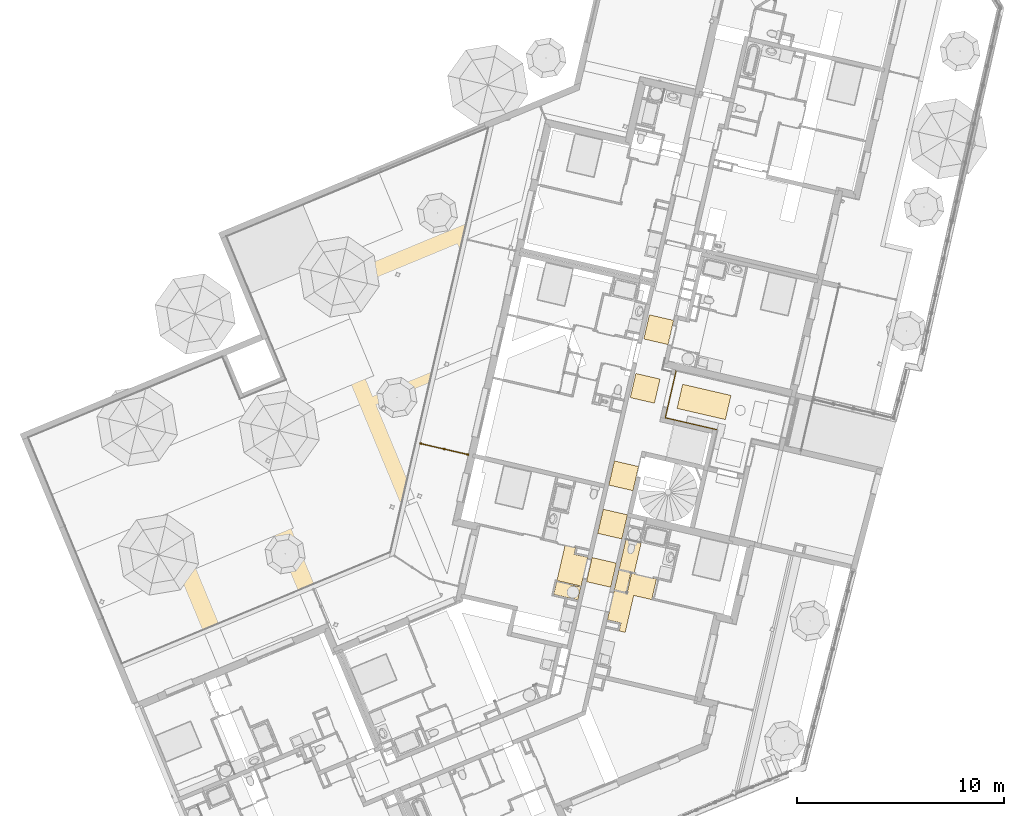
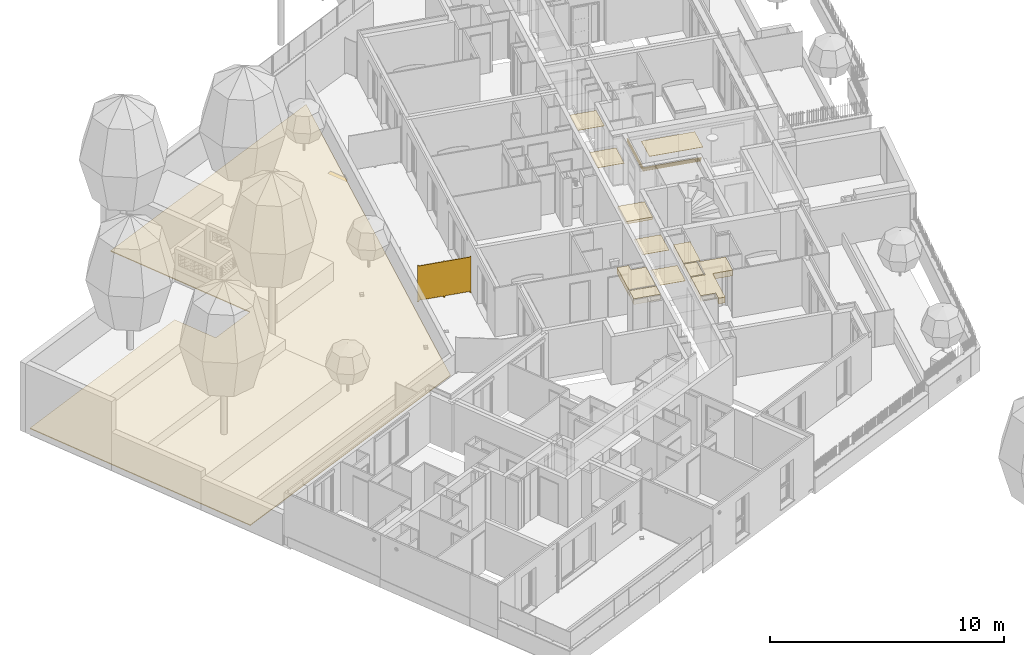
# One storey, part 71 of 119: 11 coverings, 1 railing.
"""IFC2X3 building model written with IfcOpenShell, lengths in metres."""

from ifc_helpers import new_model, entity, si_unit, converted_unit, derived_unit, money_unit, direction, frame, origin_with_axes, place, context, subcontext, project, spatial, faceted_brep, material, material_list, type_object, element, save


model = new_model("IFC2X3")

# Units and contexts
model_context = context("Model", 3, precision=1e-05, world=origin_with_axes(), true_north=direction((0.0, 1.0)))
body_context = subcontext(model_context, "Body", "Model", "MODEL_VIEW")
ifc_project = project(units=[si_unit("LENGTHUNIT", "METRE"), si_unit("AREAUNIT", "SQUARE_METRE"), si_unit("VOLUMEUNIT", "CUBIC_METRE"), converted_unit("PLANEANGLEUNIT", "DEGREE", entity("IfcPlaneAngleMeasure", 0.0174532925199), si_unit("PLANEANGLEUNIT", "RADIAN"), dimensions=[0, 0, 0, 0, 0, 0, 0]), si_unit("SOLIDANGLEUNIT", "STERADIAN"), money_unit("EUR"), converted_unit("TIMEUNIT", "Year", entity("IfcTimeMeasure", 31556926.0), si_unit("TIMEUNIT", "SECOND"), dimensions=[0, 0, 1, 0, 0, 0, 0]), si_unit("MASSUNIT", "GRAM", prefix="KILO"), si_unit("THERMODYNAMICTEMPERATUREUNIT", "DEGREE_CELSIUS"), si_unit("LUMINOUSINTENSITYUNIT", "LUMEN"), si_unit("ENERGYUNIT", "JOULE", prefix="MEGA"), derived_unit("THERMALCONDUCTANCEUNIT", [(si_unit("POWERUNIT", "WATT"), 1), (si_unit("LENGTHUNIT", "METRE"), -1), (si_unit("THERMODYNAMICTEMPERATUREUNIT", "KELVIN"), -1)]), derived_unit("SPECIFICHEATCAPACITYUNIT", [(si_unit("ENERGYUNIT", "JOULE"), 1), (si_unit("MASSUNIT", "GRAM", prefix="KILO"), -1), (si_unit("THERMODYNAMICTEMPERATUREUNIT", "KELVIN"), -1)]), derived_unit("MASSDENSITYUNIT", [(si_unit("MASSUNIT", "GRAM", prefix="KILO"), 1), (si_unit("VOLUMEUNIT", "CUBIC_METRE"), -1)])], contexts=[model_context])

# Site, building, storey
site_placement = place(None, origin_with_axes())
site = spatial("IfcSite", under=ifc_project, at=site_placement, Name="Site", CompositionType="ELEMENT")
building_placement = place(site_placement, origin_with_axes())
building = spatial("IfcBuilding", under=site, at=building_placement, Name="Bâtiment", CompositionType="ELEMENT")
storey_placement = place(building_placement, origin_with_axes())
storey = spatial("IfcBuildingStorey", under=building, at=storey_placement, Name="Rez-de-chaussée", CompositionType="ELEMENT", Elevation=0.0)

# Coverings
ifc_material_1 = material(Name="Finition int - Plaque de plâtre ACOUSTIQUE type GYPTONE")
covering_type_1 = type_object("IfcCoveringType", Name="Finition int - Plaque de plâtre ACOUSTIQUE type GYPTONE 15", PredefinedType="CEILING")
for number, where, z_axis, x_axis, name in (
    (1, (-10.7034347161, -0.277914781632, 2.272), (0.0, 0.0, 1.0), (1.0, 0.0, 0.0), "Dalle_004"),
    (2, (-11.3589488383, -3.118253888, 2.272), (0.0, 0.0, 1.0), (1.0, 0.0, 0.0), "Dalle_004"),
):
    element("IfcCovering", number, at=place(storey_placement, frame(where, z_axis=z_axis, x_axis=x_axis)), inside=storey, type_object=covering_type_1, material=ifc_material_1, Name=name, PredefinedType="CEILING", context=body_context, shape_type="Brep", body=[
        faceted_brep([(0.0, 0.0, 0.0), (0.0, 0.0, -0.015), (1.16926481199, -0.269851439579, -0.015), (1.16926481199, -0.269851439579, 0.0), (0.269851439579, 1.16926481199, 0.0), (0.269851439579, 1.16926481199, -0.015), (1.43911625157, 0.899413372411, -0.015), (1.43911625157, 0.899413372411, 0.0)], [[[0, 1, 2, 3]], [[4, 5, 1, 0]], [[2, 1, 5, 6]], [[3, 2, 6, 7]], [[4, 0, 3, 7]], [[7, 6, 5, 4]]]),
    ])
covering_1_placement = place(storey_placement, frame((-9.09387877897, -3.6410032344, 2.392), z_axis=(0.0, 0.0, 1.0), x_axis=(1.0, 0.0, 0.0)))
element("IfcCovering", 3, at=covering_1_placement, inside=storey, type_object=covering_type_1, material=ifc_material_1, Name="Dalle_004", PredefinedType="CEILING", context=body_context, shape_type="Brep", body=[
    faceted_brep([(0.0, 0.0, 0.0), (0.0, 0.0, -0.015), (2.33852962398, -0.539702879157, -0.015), (2.33852962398, -0.539702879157, 0.0), (0.269851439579, 1.16926481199, 0.0), (0.269851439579, 1.16926481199, -0.015), (2.60838106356, 0.629561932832, -0.015), (2.60838106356, 0.629561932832, 0.0)], [[[0, 1, 2, 3]], [[4, 5, 1, 0]], [[2, 1, 5, 6]], [[3, 2, 6, 7]], [[4, 0, 3, 7]], [[7, 6, 5, 4]]]),
])
for number, where, z_axis, x_axis, name in (
    (4, (-12.9379557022, -9.69153193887, 2.272), (0.0, 0.0, 1.0), (1.0, 0.0, 0.0), "Dalle_004"),
    (5, (-13.4776585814, -12.0300615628, 2.272), (0.0, 0.0, 1.0), (1.0, 0.0, 0.0), "Dalle_004"),
):
    element("IfcCovering", number, at=place(storey_placement, frame(where, z_axis=z_axis, x_axis=x_axis)), inside=storey, type_object=covering_type_1, material=ifc_material_1, Name=name, PredefinedType="CEILING", context=body_context, shape_type="Brep", body=[
        faceted_brep([(0.0, 0.0, 0.0), (0.0, 0.0, -0.015), (1.16926481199, -0.269851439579, -0.015), (1.16926481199, -0.269851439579, 0.0), (0.269851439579, 1.16926481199, 0.0), (0.269851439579, 1.16926481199, -0.015), (1.43911625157, 0.899413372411, -0.015), (1.43911625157, 0.899413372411, 0.0)], [[[0, 1, 2, 3]], [[4, 5, 1, 0]], [[2, 1, 5, 6]], [[3, 2, 6, 7]], [[4, 0, 3, 7]], [[7, 6, 5, 4]]]),
    ])
ifc_material_2 = material(Name="Finition sol - Carrelage")
covering_type_2 = type_object("IfcCoveringType", Name="Corniche lumineuse 50 x 180", PredefinedType="USERDEFINED")
covering_2_placement = place(storey_placement, frame((-9.69538604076, -4.11282312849, 2.1), z_axis=(0.0, 0.0, 1.0), x_axis=(0.224876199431, 0.974387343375, 0.0)))
element("IfcCovering", 6, at=covering_2_placement, inside=storey, type_object=covering_type_2, material=ifc_material_2, Name="M_Ext-014", ObjectType="MOLDING", PredefinedType="USERDEFINED", context=body_context, shape_type="Brep", body=[
    faceted_brep([(2.34024268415, -0.039777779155, 0.179999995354), (0.0497573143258, -0.039777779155, 0.179999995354), (0.0497573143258, -0.0497573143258, 0.179999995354), (2.34024268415, -0.0497573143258, 0.179999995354), (0.0485190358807, -0.039012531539, 0.151832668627), (0.0486246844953, -0.0390485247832, 0.153157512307), (2.34137531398, -0.0390485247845, 0.153157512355), (2.34148096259, -0.039012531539, 0.151832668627), (0.0486246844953, -0.0486246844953, 0.153157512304), (2.34137531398, -0.0486246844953, 0.153157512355), (0.0464894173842, -0.0367087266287, 0.126381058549), (0.0464894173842, -0.0464894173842, 0.126381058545), (0.0484134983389, -0.0384178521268, 0.15050921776), (0.0483677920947, -0.0370849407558, 0.149936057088), (0.0482645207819, 1.75415415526e-09, 0.148641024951), (0.0476820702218, 1.75415060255e-09, 0.141337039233), (0.0475812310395, -0.0362113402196, 0.140072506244), (0.0475282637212, -0.037631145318, 0.139408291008), (0.0474099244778, -0.0381359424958, 0.13792430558), (2.34351058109, -0.0464894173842, 0.126381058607), (2.34351058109, -0.0367087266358, 0.126381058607), (2.342590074, -0.0381359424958, 0.13792430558), (2.34247173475, -0.037631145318, 0.139408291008), (2.34241876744, -0.0362113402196, 0.140072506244), (2.34231792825, 1.75415948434e-09, 0.141337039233), (2.34173547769, 1.75415948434e-09, 0.148641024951), (2.34163220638, -0.0370849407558, 0.149936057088), (2.34158650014, -0.0384178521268, 0.15050921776), (0.041833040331, -0.0322835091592, 0.090590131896), (0.041833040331, -0.041833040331, 0.0905901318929), (2.34816695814, -0.0322835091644, 0.0905901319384), (2.3499858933, -0.0311721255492, 0.0816013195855), (0.0400141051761, -0.0311721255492, 0.0816013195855), (2.34816695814, -0.041833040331, 0.0905901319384), (0.0353553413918, -0.0267066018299, 0.058578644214), (0.0353553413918, -0.0353553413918, 0.0585786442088), (0.0397780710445, -0.0305159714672, 0.0804348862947), (0.0396786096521, -0.0292711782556, 0.0799433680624), (0.0394717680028, -8.21943402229e-10, 0.0789211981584), (0.037871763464, -1.05185421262e-07, 0.0710142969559), (0.0376830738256, -0.0267024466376, 0.0700818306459), (0.0375300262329, -0.0281999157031, 0.0693255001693), (0.0372000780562, -0.0285946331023, 0.067694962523), (0.0353911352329, -0.0267542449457, 0.0587555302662), (2.35464465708, -0.0353553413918, 0.0585786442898), (2.35464465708, -0.0267066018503, 0.0585786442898), (2.35460886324, -0.0267542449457, 0.0587555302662), (2.35279992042, -0.0285946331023, 0.067694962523), (2.35246997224, -0.0281999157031, 0.0693255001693), (2.35231692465, -0.0267024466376, 0.0700818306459), (2.35212823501, -1.05185405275e-07, 0.0710142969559), (2.35052823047, -8.21934520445e-10, 0.0789211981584), (2.35032138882, -0.0292711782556, 0.0799433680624), (2.35022192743, -0.0305159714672, 0.0804348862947), (0.027360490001, -0.0185426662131, 0.0326008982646), (0.027360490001, -0.027360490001, 0.0326008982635), (0.0297170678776, -0.0217720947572, 0.0402581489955), (2.3602829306, -0.0217720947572, 0.0402581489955), (2.36263950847, -0.027360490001, 0.0326008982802), (2.36263950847, -0.0185426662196, 0.0326008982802), (0.0229630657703, -0.0141301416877, 0.0223424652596), (0.0229630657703, -0.0229630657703, 0.0223424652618), (0.0230765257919, -0.0143278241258, 0.0226071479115), (2.36692347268, -0.0143278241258, 0.0226071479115), (2.36703693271, -0.0229630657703, 0.0223424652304), (2.36703693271, -0.0141301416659, 0.0223424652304), (0.018404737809, -0.00793106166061, 0.0140423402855), (0.018404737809, -0.018404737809, 0.0140423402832), (2.37159526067, -0.00793106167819, 0.0140423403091), (2.37231150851, -0.00728579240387, 0.0131783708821), (0.0176884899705, -0.00728579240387, 0.0131783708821), (2.37159526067, -0.018404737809, 0.0140423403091), (0.0104699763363, 1.75415770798e-09, 0.00447108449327), (0.0104699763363, -0.0104699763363, 0.00447108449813), (0.0157136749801, -0.00365822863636, 0.0107962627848), (0.0150535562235, 1.75415593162e-09, 0.00999999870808), (2.37953002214, -0.0104699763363, 0.00447108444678), (2.37953002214, 1.75415948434e-09, 0.00447108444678), (2.37494644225, 1.75415770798e-09, 0.00999999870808), (2.3742863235, -0.00365822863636, 0.0107962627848), (0.00552140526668, 1.75415593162e-09, 0.00123783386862), (0.00552140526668, -0.00552140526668, 0.00123783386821), (2.38447859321, 1.75415948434e-09, 0.00123783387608), (2.38999999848, 1.75415770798e-09, 0.0), (0.0, 1.75415770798e-09, 0.0), (2.38447859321, -0.00552140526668, 0.00123783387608)], [[[0, 1, 2, 3]], [[4, 5, 1, 0, 6, 7]], [[5, 8, 2, 1]], [[3, 2, 8, 9]], [[9, 6, 0, 3]], [[10, 11, 8, 5, 4, 12, 13, 14, 15, 16, 17, 18]], [[7, 6, 9, 19, 20, 21, 22, 23, 24, 25, 26, 27]], [[27, 12, 4, 7]], [[9, 8, 11, 19]], [[28, 29, 11, 10]], [[26, 13, 12, 27]], [[25, 14, 13, 26]], [[24, 15, 14, 25]], [[23, 16, 15, 24]], [[22, 17, 16, 23]], [[21, 18, 17, 22]], [[28, 10, 18, 21, 20, 30, 31, 32]], [[30, 20, 19, 33]], [[19, 11, 29, 33]], [[34, 35, 29, 28, 32, 36, 37, 38, 39, 40, 41, 42, 43]], [[31, 30, 33, 44, 45, 46, 47, 48, 49, 50, 51, 52, 53]], [[53, 36, 32, 31]], [[33, 29, 35, 44]], [[54, 55, 35, 34, 56]], [[52, 37, 36, 53]], [[51, 38, 37, 52]], [[50, 39, 38, 51]], [[49, 40, 39, 50]], [[48, 41, 40, 49]], [[47, 42, 41, 48]], [[46, 43, 42, 47]], [[56, 34, 43, 46, 45, 57]], [[57, 45, 44, 58, 59]], [[44, 35, 55, 58]], [[60, 61, 55, 54, 62]], [[62, 54, 56, 57, 59, 63]], [[63, 59, 58, 64, 65]], [[58, 55, 61, 64]], [[66, 67, 61, 60]], [[66, 60, 62, 63, 65, 68, 69, 70]], [[68, 65, 64, 71]], [[64, 61, 67, 71]], [[72, 73, 67, 66, 70, 74, 75]], [[69, 68, 71, 76, 77, 78, 79]], [[79, 74, 70, 69]], [[71, 67, 73, 76]], [[80, 81, 73, 72]], [[78, 75, 74, 79]], [[80, 72, 75, 78, 77, 82, 83, 84]], [[82, 77, 76, 85]], [[76, 73, 81, 85]], [[80, 84, 81]], [[83, 82, 85]], [[85, 81, 84, 83]]]),
])
covering_3_placement = place(storey_placement, frame((-7.16431648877, -4.69696177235, 2.1), z_axis=(0.0, 0.0, 1.0), x_axis=(-0.974387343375, 0.224876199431, 0.0)))
element("IfcCovering", 7, at=covering_3_placement, inside=storey, type_object=covering_type_2, material=ifc_material_2, Name="M_Ext-013", ObjectType="MOLDING", PredefinedType="USERDEFINED", context=body_context, shape_type="Brep", body=[
    faceted_brep([(2.55782323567, -0.0397777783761, 0.179999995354), (-0.0397777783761, -0.0397777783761, 0.179999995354), (-0.0397777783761, -0.04975731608, 0.179999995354), (2.55782323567, -0.0497573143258, 0.179999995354), (2.55858848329, -0.039012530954, 0.151832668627), (-0.039012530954, -0.039012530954, 0.151832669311), (-0.039012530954, -0.0485190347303, 0.151832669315), (-0.0390485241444, -0.0486246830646, 0.153157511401), (2.55855249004, -0.0486246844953, 0.153157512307), (2.55858848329, -0.0485190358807, 0.151832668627), (2.5591831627, -0.0384178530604, 0.15050921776), (-0.0384178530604, -0.0384178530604, 0.150509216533), (-0.0376311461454, -0.0475282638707, 0.139408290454), (-0.0381359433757, -0.0474099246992, 0.137924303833), (-0.0367087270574, -0.0464894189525, 0.126381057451), (2.5608922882, -0.0464894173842, 0.126381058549), (2.55946507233, -0.0474099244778, 0.13792430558), (2.55996986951, -0.0475282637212, 0.139408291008), (2.56138967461, -0.0475812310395, 0.140072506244), (2.59760101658, -0.0476820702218, 0.141337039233), (2.59760101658, -0.0482645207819, 0.148641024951), (2.56051607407, -0.0483677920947, 0.149936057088), (2.5591831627, -0.0484134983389, 0.15050921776), (-0.0384178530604, -0.0484134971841, 0.150509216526), (-0.0370849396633, -0.0483677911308, 0.149936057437), (0.0, -0.0482645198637, 0.148641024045), (0.0, -0.0476820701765, 0.14133703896), (-0.036211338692, -0.047581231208, 0.140072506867), (2.56051607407, -0.0370849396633, 0.149936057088), (-0.0370849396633, -0.0370849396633, 0.149936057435), (-0.0381359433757, -0.0381359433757, 0.137924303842), (-0.0376311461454, -0.0376311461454, 0.139408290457), (-0.0322835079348, -0.0418330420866, 0.0905901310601), (-0.031172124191, -0.031172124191, 0.0816013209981), (-0.031172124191, -0.0400141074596, 0.081601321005), (2.56531750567, -0.041833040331, 0.090590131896), (2.56642888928, -0.031172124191, 0.0816013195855), (2.55946507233, -0.0381359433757, 0.13792430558), (2.56642888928, -0.0400141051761, 0.0816013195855), (2.55996986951, -0.0376311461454, 0.139408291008), (2.56138967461, -0.036211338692, 0.140072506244), (2.59760101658, 0.0, 0.141337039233), (2.59760101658, 0.0, 0.148641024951), (0.0, 0.0, 0.148641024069), (0.0, 0.0, 0.141337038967), (-0.036211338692, -0.036211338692, 0.140072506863), (-0.0305159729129, -0.0305159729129, 0.0804348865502), (-0.0305159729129, -0.0397780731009, 0.0804348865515), (-0.0285946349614, -0.0372000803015, 0.0676949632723), (-0.0267542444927, -0.035391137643, 0.0587555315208), (-0.0267066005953, -0.0353553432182, 0.0585786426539), (2.570894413, -0.0353553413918, 0.058578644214), (2.57084676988, -0.0353911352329, 0.0587555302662), (2.56900638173, -0.0372000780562, 0.067694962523), (2.56940109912, -0.0375300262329, 0.0693255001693), (2.57089856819, -0.0376830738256, 0.0700818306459), (2.59760090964, -0.037871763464, 0.0710142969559), (2.59760101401, -0.0394717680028, 0.0789211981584), (2.56832983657, -0.0396786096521, 0.0799433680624), (2.56708504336, -0.0397780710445, 0.0804348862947), (-0.0292711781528, -0.039678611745, 0.0799433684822), (0.0, -0.0394717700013, 0.0789211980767), (0.0, -0.0378717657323, 0.0710142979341), (-0.0267024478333, -0.0376830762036, 0.0700818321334), (-0.0281999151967, -0.0375300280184, 0.0693254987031), (2.56708504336, -0.0305159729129, 0.0804348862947), (-0.0292711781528, -0.0292711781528, 0.0799433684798), (-0.0267542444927, -0.0267542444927, 0.0587555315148), (-0.0285946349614, -0.0285946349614, 0.0676949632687), (-0.0217720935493, -0.0297170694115, 0.0402581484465), (-0.0217720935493, -0.0217720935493, 0.0402581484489), (-0.0185426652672, -0.0273604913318, 0.032600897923), (2.57905834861, -0.027360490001, 0.0326008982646), (2.57582892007, -0.0297170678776, 0.0402581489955), (2.57582892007, -0.0217720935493, 0.0402581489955), (2.57084676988, -0.0267542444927, 0.0587555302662), (2.56900638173, -0.0285946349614, 0.067694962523), (2.56940109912, -0.0281999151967, 0.0693255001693), (2.57089856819, -0.0267024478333, 0.0700818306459), (2.59760090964, 0.0, 0.0710142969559), (2.59760101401, 0.0, 0.0789211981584), (2.56832983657, -0.0292711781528, 0.0799433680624), (0.0, 0.0, 0.0789211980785), (0.0, 0.0, 0.071014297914), (-0.0267024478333, -0.0267024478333, 0.0700818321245), (-0.0281999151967, -0.0281999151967, 0.0693254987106), (-0.0143278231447, -0.0230765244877, 0.0226071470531), (-0.0143278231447, -0.0143278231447, 0.0226071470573), (-0.0141301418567, -0.0229630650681, 0.0223424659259), (2.58347087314, -0.0229630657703, 0.0223424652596), (2.5832731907, -0.0230765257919, 0.0226071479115), (2.5832731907, -0.0143278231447, 0.0226071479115), (-0.00793105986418, -0.0184047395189, 0.0140423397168), (-0.00728579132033, -0.00728579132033, 0.0131783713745), (-0.00728579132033, -0.0176884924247, 0.0131783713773), (2.58966995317, -0.018404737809, 0.0140423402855), (2.59031522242, -0.00728579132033, 0.0131783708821), (2.59031522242, -0.0176884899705, 0.0131783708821), (-0.00365822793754, -0.00365822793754, 0.0107962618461), (-0.00365822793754, -0.0157136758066, 0.0107962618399), (0.0, -0.0150535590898, 0.0100000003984), (0.0, -0.0104699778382, 0.00447108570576), (2.59760101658, -0.0104699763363, 0.00447108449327), (2.59760101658, -0.0150535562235, 0.00999999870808), (2.59394278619, -0.0157136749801, 0.0107962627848), (2.59394278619, -0.00365822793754, 0.0107962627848), (0.0, 0.0, 0.0100000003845), (0.0, -0.00552140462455, 0.0012378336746), (0.0, 1.75415859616e-09, 0.0), (2.59760101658, -0.00552140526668, 0.00123783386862), (2.59760101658, 0.0, 0.0), (2.59760101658, 0.0, 0.00999999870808)], [[[0, 1, 2, 3]], [[4, 5, 1, 0]], [[6, 7, 2, 1, 5]], [[3, 2, 7, 8]], [[9, 4, 0, 3, 8]], [[10, 11, 5, 4]], [[12, 13, 14, 15, 16, 17, 18, 19, 20, 21, 22, 9, 8, 7, 6, 23, 24, 25, 26, 27]], [[11, 23, 6, 5]], [[10, 4, 9, 22]], [[28, 29, 11, 10]], [[30, 13, 12, 31]], [[32, 14, 13, 30, 33, 34]], [[15, 14, 32, 35]], [[36, 37, 16, 15, 35, 38]], [[37, 39, 17, 16]], [[39, 40, 18, 17]], [[40, 41, 19, 18]], [[41, 42, 20, 19]], [[42, 28, 21, 20]], [[28, 10, 22, 21]], [[29, 24, 23, 11]], [[43, 25, 24, 29]], [[44, 26, 25, 43]], [[45, 27, 26, 44]], [[31, 12, 27, 45]], [[42, 43, 29, 28]], [[37, 30, 31, 39]], [[36, 33, 30, 37]], [[46, 47, 34, 33]], [[48, 49, 50, 51, 52, 53, 54, 55, 56, 57, 58, 59, 38, 35, 32, 34, 47, 60, 61, 62, 63, 64]], [[65, 36, 38, 59]], [[39, 31, 45, 40]], [[40, 45, 44, 41]], [[41, 44, 43, 42]], [[65, 46, 33, 36]], [[66, 60, 47, 46]], [[67, 49, 48, 68]], [[69, 50, 49, 67, 70]], [[50, 69, 71, 72, 73, 51]], [[74, 75, 52, 51, 73]], [[75, 76, 53, 52]], [[76, 77, 54, 53]], [[77, 78, 55, 54]], [[78, 79, 56, 55]], [[79, 80, 57, 56]], [[80, 81, 58, 57]], [[81, 65, 59, 58]], [[82, 61, 60, 66]], [[83, 62, 61, 82]], [[84, 63, 62, 83]], [[85, 64, 63, 84]], [[68, 48, 64, 85]], [[81, 66, 46, 65]], [[75, 67, 68, 76]], [[74, 70, 67, 75]], [[86, 71, 69, 70, 87]], [[71, 86, 88, 89, 90, 72]], [[91, 74, 73, 72, 90]], [[76, 68, 85, 77]], [[77, 85, 84, 78]], [[78, 84, 83, 79]], [[79, 83, 82, 80]], [[80, 82, 66, 81]], [[91, 87, 70, 74]], [[92, 88, 86, 87, 93, 94]], [[89, 88, 92, 95]], [[96, 91, 90, 89, 95, 97]], [[96, 93, 87, 91]], [[98, 99, 94, 93]], [[99, 100, 101, 102, 103, 104, 97, 95, 92, 94]], [[105, 96, 97, 104]], [[105, 98, 93, 96]], [[106, 100, 99, 98]], [[107, 101, 100, 106, 108]], [[102, 101, 107, 109]], [[110, 111, 103, 102, 109]], [[111, 105, 104, 103]], [[111, 106, 98, 105]], [[110, 108, 106, 111]], [[109, 107, 108, 110]]]),
])
ifc_material_3 = material(Name="Panneau drainage")
covering_type_3 = type_object("IfcCoveringType", Name="Panneau drainage 40", PredefinedType="INSULATION")
covering_4_placement = place(storey_placement, frame((-31.1017428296, -1.13578147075, 0.05), z_axis=(0.0, 0.0, 1.0), x_axis=(1.0, 0.0, 0.0)))
element("IfcCovering", 8, at=covering_4_placement, inside=storey, type_object=covering_type_3, material=ifc_material_3, Name="Dalle_004", PredefinedType="INSULATION", context=body_context, shape_type="Brep", body=[
    faceted_brep([(0.0, 0.0, 0.0), (0.0, 0.0, -0.04), (-9.41553793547, -3.90516852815, -0.04), (-9.41553793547, -3.90516852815, 0.0), (0.846678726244, -2.04138069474, 0.0), (0.846678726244, -2.04138069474, -0.04), (3.08203677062, -1.11424833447, -0.04), (2.23535804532, 0.927132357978, -0.04), (2.23264258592, 0.9260060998, -0.04), (0.190729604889, 5.83070416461, -0.04), (12.9047830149, 11.1039704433, -0.04), (8.15201521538, -9.48974642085, -0.04), (-4.86077651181, -14.8869043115, -0.04), (-4.86077651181, -14.8869043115, 0.0), (8.15201521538, -9.48974642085, 0.0), (12.9047830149, 11.1039704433, 0.0), (0.190729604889, 5.83070416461, 0.0), (2.23264258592, 0.9260060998, 0.0), (2.23535804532, 0.927132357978, 0.0), (3.08203677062, -1.11424833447, 0.0)], [[[0, 1, 2, 3]], [[4, 5, 1, 0]], [[2, 1, 5, 6, 7, 8, 9, 10, 11, 12]], [[3, 2, 12, 13]], [[4, 0, 3, 13, 14, 15, 16, 17, 18, 19]], [[19, 6, 5, 4]], [[18, 7, 6, 19]], [[17, 8, 7, 18]], [[16, 9, 8, 17]], [[15, 10, 9, 16]], [[14, 11, 10, 15]], [[13, 12, 11, 14]]]),
])
ifc_material_4 = material(Name="Finition int - Plaque de plâtre")
covering_type_4 = type_object("IfcCoveringType", Name="Finition int - Plaque de plâtre 300", PredefinedType="CEILING")
covering_5_placement = place(storey_placement, frame((-13.8972533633, -12.9143163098, 2.5), z_axis=(0.0, 0.0, 1.0), x_axis=(1.0, 0.0, 0.0)))
element("IfcCovering", 9, at=covering_5_placement, inside=storey, type_object=covering_type_4, material=ifc_material_4, Name="Dalle_004", PredefinedType="CEILING", context=body_context, shape_type="Brep", body=[
    faceted_brep([(0.0, 0.0, -0.3), (0.14369589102, 0.622633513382, -0.3), (0.14369589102, 0.622633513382, 0.0), (0.0, 0.0, 0.0), (-1.16926481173, 0.269851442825, -0.3), (-1.02556892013, 0.892484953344, -0.3), (-1.02556892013, 0.892484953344, 0.0), (-1.16926481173, 0.269851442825, 0.0)], [[[0, 1, 2, 3]], [[4, 5, 1, 0]], [[5, 6, 2, 1]], [[3, 2, 6, 7]], [[3, 7, 4, 0]], [[7, 6, 5, 4]]]),
    faceted_brep([(-0.619097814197, 2.65372202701, 0.0), (-1.01477486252, 0.939255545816, 0.0), (0.154489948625, 0.669404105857, 0.0), (0.477307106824, 2.06816908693, 0.0), (-0.182803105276, 2.20511983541, 0.0), (-0.106570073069, 2.53543714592, 0.0), (-0.619097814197, 2.65372202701, -0.3), (-1.01477486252, 0.939255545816, -0.3), (0.154489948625, 0.669404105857, -0.3), (0.477307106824, 2.06816908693, -0.3), (-0.182803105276, 2.20511983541, -0.3), (-0.106570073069, 2.53543714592, -0.3)], [[[0, 1, 2, 3, 4, 5]], [[6, 7, 1, 0]], [[7, 8, 2, 1]], [[3, 2, 8, 9]], [[4, 3, 9, 10]], [[5, 4, 10, 11]], [[0, 5, 11, 6]], [[9, 8, 7, 6, 11, 10]]]),
])
covering_6_placement = place(storey_placement, frame((-10.833336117, -10.1552773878, 2.5), z_axis=(0.0, 0.0, 1.0), x_axis=(1.0, 0.0, 0.0)))
element("IfcCovering", 10, at=covering_6_placement, inside=storey, type_object=covering_type_4, material=ifc_material_4, Name="Dalle_004", PredefinedType="CEILING", context=body_context, shape_type="Brep", body=[
    faceted_brep([(-1.29704589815, -2.26268990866, 0.0), (-0.723131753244, -2.39514199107, 0.0), (-0.50368993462, -1.44430179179, 0.0), (-1.07760408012, -1.31184971, 0.0), (-1.29704589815, -2.26268990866, -0.3), (-0.723131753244, -2.39514199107, -0.3), (-0.50368993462, -1.44430179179, -0.3), (-1.07760408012, -1.31184971, -0.3)], [[[0, 1, 2, 3]], [[4, 5, 1, 0]], [[5, 6, 2, 1]], [[3, 2, 6, 7]], [[7, 4, 0, 3]], [[7, 6, 5, 4]]]),
    faceted_brep([(-0.735662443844, 0.16978153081, 0.0), (-1.06681002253, -1.26507911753, 0.0), (-0.331147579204, -1.43486064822, 0.0), (0.0, 0.0, 0.0), (-0.735662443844, 0.16978153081, -0.3), (-1.06681002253, -1.26507911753, -0.3), (-0.331147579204, -1.43486064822, -0.3), (0.0, 0.0, -0.3)], [[[0, 1, 2, 3]], [[4, 5, 1, 0]], [[5, 6, 2, 1]], [[3, 2, 6, 7]], [[0, 3, 7, 4]], [[7, 6, 5, 4]]]),
    faceted_brep([(-0.341941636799, -1.4816312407, -0.3), (-0.456919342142, -1.45509584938, -0.3), (-0.456919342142, -1.45509584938, 0.0), (-0.341941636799, -1.4816312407, 0.0), (-0.687155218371, -2.4527066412, -0.3), (-0.67636116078, -2.40593604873, -0.3), (-0.344865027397, -1.49429827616, -0.3), (0.741576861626, -1.74503523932, -0.3), (0.511340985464, -2.74264603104, -0.3), (-0.36073568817, -2.54138183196, -0.3), (-0.773160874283, -4.32841790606, -0.3), (-1.06547707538, -4.26095504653, -0.3), (-0.975749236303, -3.87216481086, -0.3), (-1.63346069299, -3.72037337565, -0.3), (-1.3078399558, -2.30946050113, -0.3), (-0.67636116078, -2.40593604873, 0.0), (-0.687155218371, -2.4527066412, 0.0), (-1.3078399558, -2.30946050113, 0.0), (-1.63346069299, -3.72037337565, 0.0), (-0.975749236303, -3.87216481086, 0.0), (-1.06547707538, -4.26095504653, 0.0), (-0.773160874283, -4.32841790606, 0.0), (-0.36073568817, -2.54138183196, 0.0), (0.511340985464, -2.74264603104, 0.0), (0.741576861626, -1.74503523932, 0.0), (-0.344865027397, -1.49429827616, 0.0)], [[[0, 1, 2, 3]], [[4, 5, 1, 0, 6, 7, 8, 9, 10, 11, 12, 13, 14]], [[5, 15, 2, 1]], [[3, 2, 15, 16, 17, 18, 19, 20, 21, 22, 23, 24, 25]], [[6, 0, 3, 25]], [[16, 15, 5, 4]], [[25, 24, 7, 6]], [[24, 23, 8, 7]], [[23, 22, 9, 8]], [[22, 21, 10, 9]], [[21, 20, 11, 10]], [[20, 19, 12, 11]], [[19, 18, 13, 12]], [[18, 17, 14, 13]], [[14, 17, 16, 4]]]),
])
covering_type_5 = type_object("IfcCoveringType", Name="Finition int - Plaque de plâtre ACOUSTIQUE type GYPTONE 133", PredefinedType="CEILING")
covering_7_placement = place(storey_placement, frame((-12.3982528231, -7.35300231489, 2.39), z_axis=(0.0, 0.0, 1.0), x_axis=(1.0, 0.0, 0.0)))
element("IfcCovering", 11, at=covering_7_placement, inside=storey, type_object=covering_type_5, material=ifc_material_1, Name="Dalle_004", PredefinedType="CEILING", context=body_context, shape_type="Brep", body=[
    faceted_brep([(0.0, 0.0, 0.0), (0.0, 0.0, -0.133), (1.16926481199, -0.269851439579, -0.133), (1.16926481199, -0.269851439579, 0.0), (0.269851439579, 1.16926481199, 0.0), (0.269851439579, 1.16926481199, -0.133), (1.43911625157, 0.899413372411, -0.133), (1.43911625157, 0.899413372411, 0.0)], [[[0, 1, 2, 3]], [[4, 5, 1, 0]], [[2, 1, 5, 6]], [[3, 2, 6, 7]], [[4, 0, 3, 7]], [[7, 6, 5, 4]]]),
])

# Railing
ifc_material_5 = material(Name="Métal - Acier")
ifc_material_6 = material(Name="Métal - Acier inoxidable")
ifc_material_7 = material(Name="Vitrage")
ifc_material_list = material_list([ifc_material_5, ifc_material_5, ifc_material_6, ifc_material_7, ifc_material_5, ifc_material_6, ifc_material_7])
railing_type = type_object("IfcRailingType", Name="Type de garde-corps", PredefinedType="NOTDEFINED")
railing_placement = place(storey_placement, frame((-21.5159446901, -5.34372914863, 0.2), z_axis=(0.0, 0.0, 1.0), x_axis=(1.0, 0.0, 0.0)))
element("IfcRailing", 12, at=railing_placement, inside=storey, type_object=railing_type, material=ifc_material_list, Name="Pare-vue acier laqué+verre dépoli H=190", PredefinedType="NOTDEFINED", context=body_context, shape_type="Brep", body=[
    faceted_brep([(0.0179889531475, 0.0112426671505, 0.01), (0.0112426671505, -0.0179889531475, 0.01), (0.0112426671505, -0.0179889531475, 1.88), (0.0179889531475, 0.0112426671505, 1.88), (0.0239852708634, 0.0149902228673, 0.01), (0.0149902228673, -0.0239852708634, 0.01), (-0.0239852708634, -0.0149902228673, 0.01), (-0.0149902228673, 0.0239852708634, 0.01), (-0.0179889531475, -0.0112426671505, 0.01), (-0.0112426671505, 0.0179889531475, 0.01), (-0.0179889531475, -0.0112426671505, 1.88), (-0.0239852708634, -0.0149902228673, 1.88), (0.0149902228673, -0.0239852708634, 1.88), (0.0239852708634, 0.0149902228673, 1.88), (-0.0149902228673, 0.0239852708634, 1.88), (-0.0112426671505, 0.0179889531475, 1.88)], [[[0, 1, 2, 3]], [[4, 5, 6, 7], [8, 1, 0, 9]], [[1, 8, 10, 2]], [[11, 12, 13, 14], [3, 2, 10, 15]], [[9, 0, 3, 15]], [[5, 4, 13, 12]], [[6, 5, 12, 11]], [[7, 6, 11, 14]], [[4, 7, 14, 13]], [[8, 9, 15, 10]]]),
    faceted_brep([(-0.0299804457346, 0.0479705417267, 0.0), (-0.0299804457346, 0.0479705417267, 0.01), (0.0479705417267, 0.0299804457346, 0.01), (0.0479705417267, 0.0299804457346, 0.0), (-0.0479705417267, -0.0299804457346, 0.0), (-0.0479705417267, -0.0299804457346, 0.01), (0.0299804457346, -0.0479705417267, 0.01), (0.0299804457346, -0.0479705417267, 0.0)], [[[0, 1, 2, 3]], [[4, 5, 1, 0]], [[1, 5, 6, 2]], [[3, 2, 6, 7]], [[0, 3, 7, 4]], [[7, 6, 5, 4]]]),
    faceted_brep([(2.31098780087, -0.517952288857, 0.01), (2.30424151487, -0.547183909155, 0.01), (2.30424151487, -0.547183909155, 1.88), (2.31098780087, -0.517952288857, 1.88), (2.31698411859, -0.51420473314, 0.01), (2.30798907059, -0.55318022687, 0.01), (2.26901357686, -0.544185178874, 0.01), (2.27800862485, -0.505209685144, 0.01), (2.27500989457, -0.540437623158, 0.01), (2.28175618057, -0.51120600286, 0.01), (2.27500989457, -0.540437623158, 1.88), (2.26901357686, -0.544185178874, 1.88), (2.30798907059, -0.55318022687, 1.88), (2.31698411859, -0.51420473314, 1.88), (2.27800862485, -0.505209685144, 1.88), (2.28175618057, -0.51120600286, 1.88)], [[[0, 1, 2, 3]], [[4, 5, 6, 7], [8, 1, 0, 9]], [[1, 8, 10, 2]], [[11, 12, 13, 14], [3, 2, 10, 15]], [[9, 0, 3, 15]], [[5, 4, 13, 12]], [[6, 5, 12, 11]], [[7, 6, 11, 14]], [[4, 7, 14, 13]], [[8, 9, 15, 10]]]),
    faceted_brep([(2.26301840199, -0.48122441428, 0.0), (2.26301840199, -0.48122441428, 0.01), (2.34096938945, -0.499214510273, 0.01), (2.34096938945, -0.499214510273, 0.0), (2.245028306, -0.559175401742, 0.0), (2.245028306, -0.559175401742, 0.01), (2.32297929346, -0.577165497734, 0.01), (2.32297929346, -0.577165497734, 0.0)], [[[0, 1, 2, 3]], [[4, 5, 1, 0]], [[1, 5, 6, 2]], [[3, 2, 6, 7]], [[0, 3, 7, 4]], [[7, 6, 5, 4]]]),
    faceted_brep([(1.14987256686, -0.249981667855, 0.05), (0.00337314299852, 0.014615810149, 0.05), (0.00337314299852, 0.014615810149, 1.85), (1.14987256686, -0.249981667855, 1.85), (0.0228608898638, 0.010118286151, 1.83), (0.0228608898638, 0.010118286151, 0.07), (1.13038481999, -0.245484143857, 0.07), (1.13038481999, -0.245484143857, 1.83), (-0.00337314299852, -0.014615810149, 0.05), (1.14312628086, -0.279213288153, 0.05), (-0.00337314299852, -0.014615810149, 1.85), (1.14312628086, -0.279213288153, 1.85), (0.0161146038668, -0.019113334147, 0.07), (0.0161146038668, -0.019113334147, 1.83), (1.123638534, -0.274715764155, 0.07), (1.123638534, -0.274715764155, 1.83)], [[[0, 1, 2, 3], [4, 5, 6, 7]], [[8, 1, 0, 9]], [[10, 2, 1, 8]], [[3, 2, 10, 11]], [[0, 3, 11, 9]], [[12, 5, 4, 13]], [[14, 6, 5, 12]], [[7, 6, 14, 15]], [[4, 7, 15, 13]], [[10, 8, 9, 11], [14, 12, 13, 15]]]),
    faceted_brep([(1.12926043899, -0.250356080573, 0.07), (0.0217365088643, 0.00524634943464, 0.07), (0.0217365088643, 0.00524634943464, 1.83), (1.12926043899, -0.250356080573, 1.83), (0.0172389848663, -0.0142413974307, 0.07), (1.124762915, -0.269843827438, 0.07), (0.0172389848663, -0.0142413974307, 1.83), (1.124762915, -0.269843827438, 1.83)], [[[0, 1, 2, 3]], [[4, 1, 0, 5]], [[6, 2, 1, 4]], [[3, 2, 6, 7]], [[0, 3, 7, 5]], [[6, 4, 5, 7]]]),
    faceted_brep([(1.16448837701, -0.253354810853, 0.01), (1.15774209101, -0.282586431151, 0.01), (1.15774209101, -0.282586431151, 1.88), (1.16448837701, -0.253354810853, 1.88), (1.17048469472, -0.249607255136, 0.01), (1.16148964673, -0.288582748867, 0.01), (1.122514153, -0.279587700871, 0.01), (1.13150920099, -0.24061220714, 0.01), (1.12851047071, -0.275840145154, 0.01), (1.13525675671, -0.246608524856, 0.01), (1.12851047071, -0.275840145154, 1.88), (1.122514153, -0.279587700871, 1.88), (1.16148964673, -0.288582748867, 1.88), (1.17048469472, -0.249607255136, 1.88), (1.13150920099, -0.24061220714, 1.88), (1.13525675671, -0.246608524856, 1.88)], [[[0, 1, 2, 3]], [[4, 5, 6, 7], [8, 1, 0, 9]], [[1, 8, 10, 2]], [[11, 12, 13, 14], [3, 2, 10, 15]], [[9, 0, 3, 15]], [[5, 4, 13, 12]], [[6, 5, 12, 11]], [[7, 6, 11, 14]], [[4, 7, 14, 13]], [[8, 9, 15, 10]]]),
    faceted_brep([(1.11651897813, -0.216626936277, 0.0), (1.11651897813, -0.216626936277, 0.01), (1.19446996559, -0.234617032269, 0.01), (1.19446996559, -0.234617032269, 0.0), (1.09852888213, -0.294577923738, 0.0), (1.09852888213, -0.294577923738, 0.01), (1.1764798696, -0.31256801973, 0.01), (1.1764798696, -0.31256801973, 0.0)], [[[0, 1, 2, 3]], [[4, 5, 1, 0]], [[1, 5, 6, 2]], [[3, 2, 6, 7]], [[0, 3, 7, 4]], [[7, 6, 5, 4]]]),
    faceted_brep([(2.29637199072, -0.514579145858, 0.05), (1.14987256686, -0.249981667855, 0.05), (1.14987256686, -0.249981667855, 1.85), (2.29637199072, -0.514579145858, 1.85), (1.16936031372, -0.254479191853, 1.83), (1.16936031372, -0.254479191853, 0.07), (2.27688424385, -0.51008162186, 0.07), (2.27688424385, -0.51008162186, 1.83), (1.14312628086, -0.279213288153, 0.05), (2.28962570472, -0.543810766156, 0.05), (1.14312628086, -0.279213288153, 1.85), (2.28962570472, -0.543810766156, 1.85), (1.16261402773, -0.283710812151, 0.07), (1.16261402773, -0.283710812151, 1.83), (2.27013795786, -0.539313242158, 0.07), (2.27013795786, -0.539313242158, 1.83)], [[[0, 1, 2, 3], [4, 5, 6, 7]], [[8, 1, 0, 9]], [[10, 2, 1, 8]], [[3, 2, 10, 11]], [[0, 3, 11, 9]], [[12, 5, 4, 13]], [[14, 6, 5, 12]], [[7, 6, 14, 15]], [[4, 7, 15, 13]], [[10, 8, 9, 11], [14, 12, 13, 15]]]),
    faceted_brep([(2.27575986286, -0.514953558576, 0.07), (1.16823593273, -0.259351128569, 0.07), (1.16823593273, -0.259351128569, 1.83), (2.27575986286, -0.514953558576, 1.83), (1.16373840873, -0.278838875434, 0.07), (2.27126233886, -0.534441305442, 0.07), (1.16373840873, -0.278838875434, 1.83), (2.27126233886, -0.534441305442, 1.83)], [[[0, 1, 2, 3]], [[4, 1, 0, 5]], [[6, 2, 1, 4]], [[3, 2, 6, 7]], [[0, 3, 7, 5]], [[6, 4, 5, 7]]]),
])

save(model, "model.ifc")
